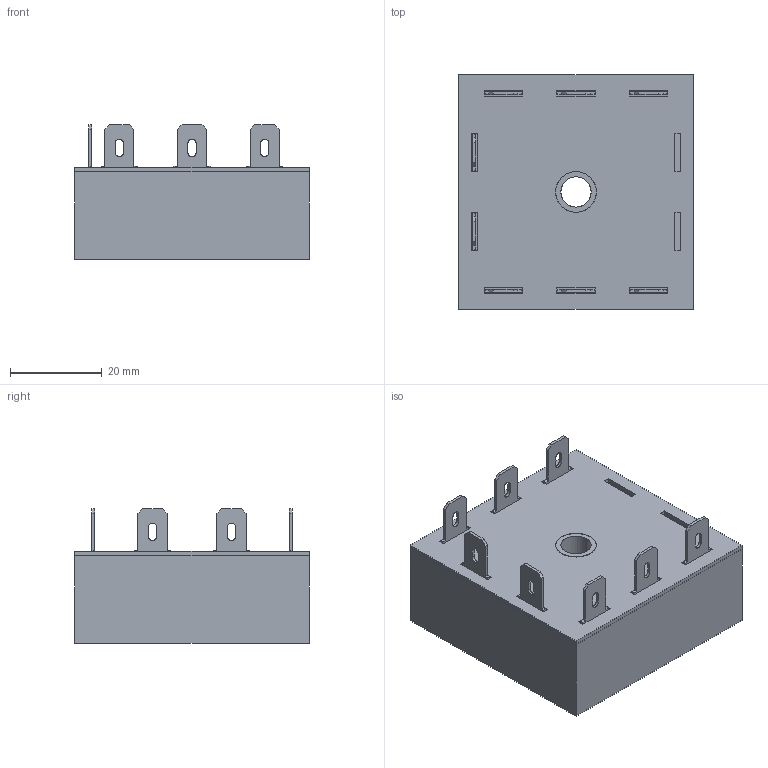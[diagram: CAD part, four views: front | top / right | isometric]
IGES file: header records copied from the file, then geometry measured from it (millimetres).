
Start section: SolidWorks IGES file using analytic representation for surfaces
Global section: file name: C:\Documents and Settings\Joshua\Desktop\eric\RT\THS\RT.IGS; native system: SolidWorks 2007; preprocessor: SolidWorks 2007; author: Joshua; date: 140205.202448; units: millimetre
Bounding box: 51.31 x 51.31 x 29.46 mm (x, y, z)
Surface area: 22818.5 mm2 (no closed solid volume)
Topology: 0 solids, 0 shells, 256 faces, 2064 edges, 2064 vertices
Faces by surface type: bspline 234, revolution 22
